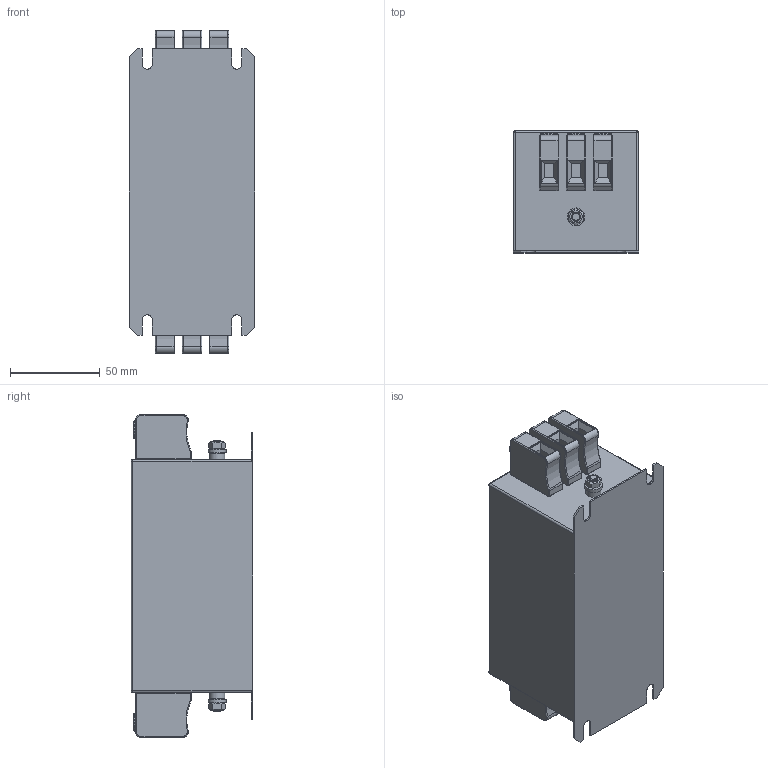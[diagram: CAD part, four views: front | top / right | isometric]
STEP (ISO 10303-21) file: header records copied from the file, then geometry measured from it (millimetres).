
FILE_DESCRIPTION((''),'2;1');
FILE_NAME('L:\INVENTOR_Projektedaten\HousingDesign\FN3270H-35-33.stp','2012-09-03T10:03:47',('Samuel.Meier'),(''),'Autodesk Inventor 2010','Autodesk Inventor 2010','');
FILE_SCHEMA(('AUTOMOTIVE_DESIGN { 1 2 10303 214 0 1 1 1 }'));
Length unit declared in the file: millimetre
Products named in the file (1): Bauteil5
Bounding box: 70 x 68 x 180 mm (x, y, z)
Volume: 666745.8 mm3; surface area: 63732.4 mm2
Topology: 1 solids, 5 shells, 556 faces, 1320 edges, 772 vertices
Faces by surface type: plane 278, cylinder 164, torus 72, sphere 28, cone 8, bspline 6
Full cylindrical faces by diameter (mm): 5 x4, 5.1 x6, 5.3 x2, 8.5 x2, 10 x8
Entity records: 16013 total; most frequent: CARTESIAN_POINT 2829, DIRECTION 2748, ORIENTED_EDGE 2476, EDGE_CURVE 1238, AXIS2_PLACEMENT_3D 995, VERTEX_POINT 760, VECTOR 758, LINE 758
